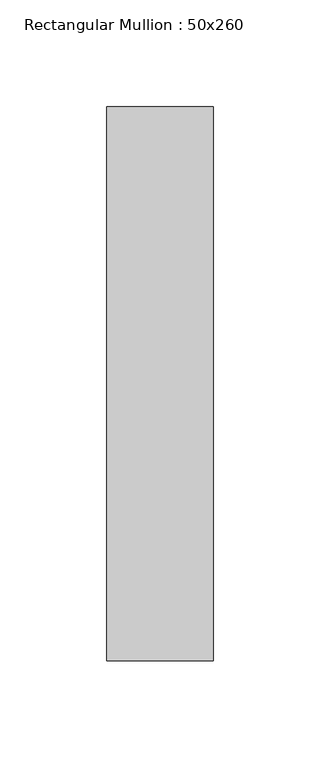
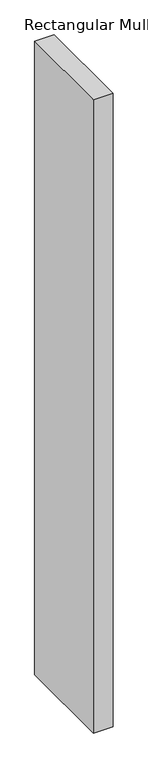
"""IFC4 building model written with IfcOpenShell, lengths in millimetres: member geometry, Rectangular Mullion : 50x260."""

from ifc_helpers import new_model, si_unit, frame, origin, place, context, project, spatial, polyline, outline, extrude, source, transform, mapped, element, save


def rectangular_mullion_50x260_182d5801(model_context):
    return source(origin(), model_context, "Body", "SweptSolid", [
        extrude(outline(polyline([(0.0, 130.0), (0.0, -130.0), (-50.0, -130.0), (-50.0, 130.0), (0.0, 130.0)])), frame((0.0, 0.0, -1708.9563907), z_axis=(0.0, 0.0, 1.0), x_axis=(1.0, 0.0, 0.0)), (0.0, 0.0, 1.0), 1708.9563907),
    ])


if __name__ == "__main__":
    model = new_model("IFC4")
    model_context = context("Model", 3, world=origin())
    ifc_project = project(units=[si_unit("LENGTHUNIT", "METRE", prefix="MILLI")], contexts=[model_context])
    site = spatial("IfcSite", under=ifc_project)
    building = spatial("IfcBuilding", under=site)
    placement = place(None, origin())
    rectangular_mullion_50x260_shape = rectangular_mullion_50x260_182d5801(model_context)
    element("IfcMember", 1, ObjectType="Rectangular Mullion : 50x260", at=placement, inside=building, context=model_context, shape_type="MappedRepresentation", body=[
        mapped(rectangular_mullion_50x260_shape, transform((0.0, 0.0, 0.0), x_axis=(1.0, 0.0, 0.0), y_axis=(0.0, 1.0, 0.0), z_axis=(0.0, 0.0, 1.0))),
    ])
    save(model, "model.ifc")
